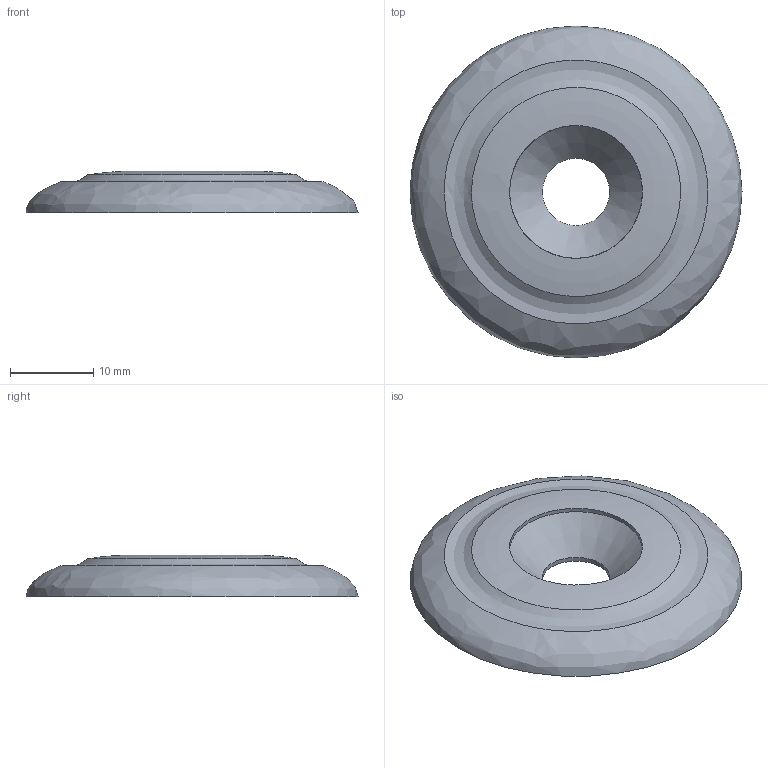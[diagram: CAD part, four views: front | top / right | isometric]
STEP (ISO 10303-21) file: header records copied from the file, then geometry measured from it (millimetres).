
FILE_DESCRIPTION(/* description */ (''),/* implementation_level */ '2;1');
FILE_NAME(/* name */ 'peg-delete-ring.step',/* time_stamp */ '2026-03-22T08:50:00+01:00',/* author */ (''),/* organization */ (''),/* preprocessor_version */ 'ST-DEVELOPER v20.1',/* originating_system */ 'Autodesk Translation Framework v14.24.0.0',/* authorisation */ '');
FILE_SCHEMA (('AUTOMOTIVE_DESIGN { 1 0 10303 214 3 1 1 }'));
Length unit declared in the file: millimetre
Products named in the file (1): 2025-09-22-15-26-51-302
Bounding box: 40 x 40 x 5 mm (x, y, z)
Volume: 4131.6 mm3; surface area: 2745 mm2
Topology: 1 solids, 1 shells, 7 faces, 13 edges, 7 vertices
Faces by surface type: bspline 2, cylinder 2, torus 1, cone 1, plane 1
Full cylindrical faces by diameter (mm): 8.1 x1, 16 x1
Entity records: 500 total; most frequent: CARTESIAN_POINT 328, ORIENTED_EDGE 26, DIRECTION 25, EDGE_CURVE 13, AXIS2_PLACEMENT_3D 11, EDGE_LOOP 8, FACE_OUTER_BOUND 7, VERTEX_POINT 7
